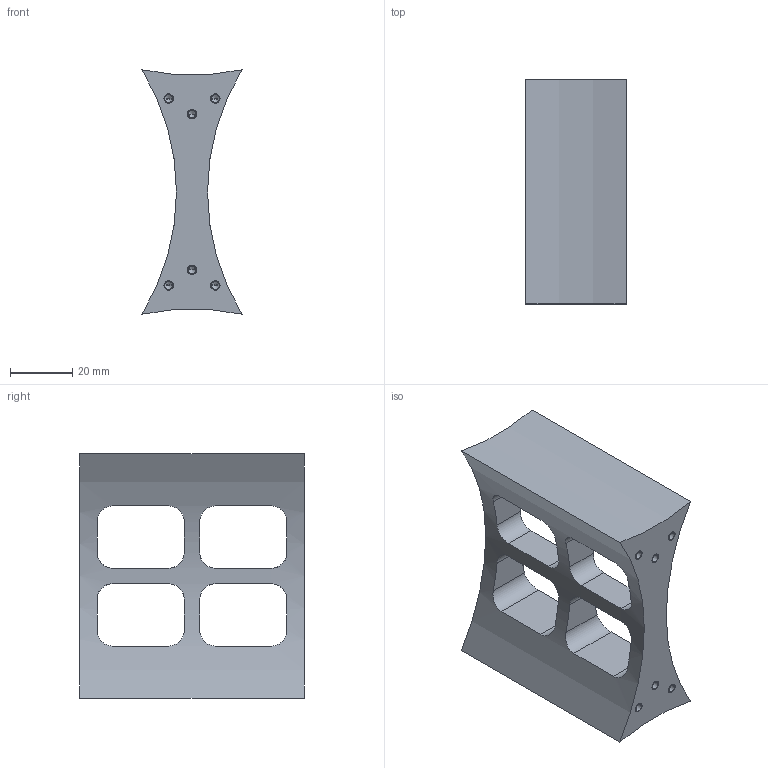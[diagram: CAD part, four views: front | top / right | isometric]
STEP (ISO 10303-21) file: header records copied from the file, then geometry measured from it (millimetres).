
FILE_DESCRIPTION((''),'2;1');
FILE_NAME('ART2UNION_V-1','2022-08-24T09:24:34',('domen.bizjak'),('Audax d.o.o.'),'CREO PARAMETRIC BY PTC INC, 2021184','CREO PARAMETRIC BY PTC INC, 2021184','');
FILE_SCHEMA(('AP242_MANAGED_MODEL_BASED_3D_ENGINEERING_MIM_LF { 1 0 10303 442 1 1 4 }'));
Length unit declared in the file: millimetre
Products named in the file (1): ART2UNION_V-1
Bounding box: 32.18 x 72 x 78.49 mm (x, y, z)
Volume: 63953.2 mm3; surface area: 21396.5 mm2
Topology: 1 solids, 13 shells, 122 faces, 364 edges, 264 vertices
Faces by surface type: cylinder 68, plane 30, cone 24
Entity records: 7266 total; most frequent: CARTESIAN_POINT 1011, DIRECTION 770, ORIENTED_EDGE 552, PRESENTATION_STYLE_ASSIGNMENT 359, STYLED_ITEM 359, CURVE_STYLE 341, COLOUR_RGB 320, AXIS2_PLACEMENT_3D 305
